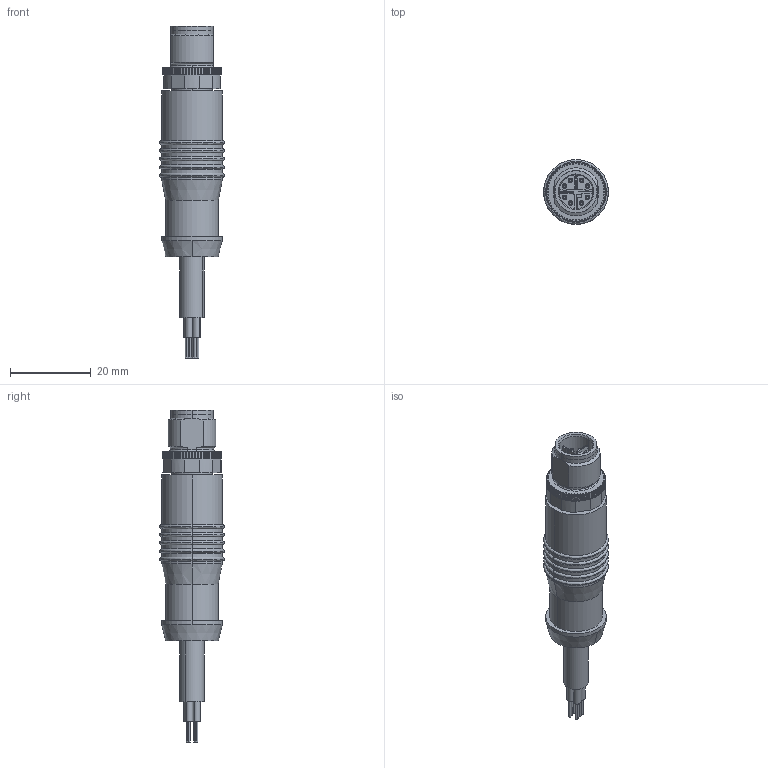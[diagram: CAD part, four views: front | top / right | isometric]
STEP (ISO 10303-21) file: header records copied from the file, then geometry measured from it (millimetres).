
FILE_DESCRIPTION (( 'STEP AP214' ), '1' );
FILE_NAME ('MV-13.STEP', '2023-06-22T15:48:21', ( '' ), ( '' ), 'SwSTEP 2.0', 'SolidWorks 2021', '' );
FILE_SCHEMA (( 'AUTOMOTIVE_DESIGN' ));
Length unit declared in the file: millimetre
Products named in the file (4): MV-13; MV-13 Overmold; 99-3787-810-08-001_00; MI_Cable_Ethernet
Assembly tree (3 placements, depth 2):
  MV-13
    99-3787-810-08-001_00
    MV-13 Overmold
    MI_Cable_Ethernet
Bounding box: 16 x 16 x 82.05 mm (x, y, z)
Volume: 8519.3 mm3; surface area: 4550.7 mm2
Topology: 15 solids, 15 shells, 594 faces, 1538 edges, 980 vertices
Faces by surface type: plane 310, cylinder 226, bspline 48, cone 10
Entity records: 20439 total; most frequent: CARTESIAN_POINT 3980, DIRECTION 3196, ORIENTED_EDGE 3044, EDGE_CURVE 1522, AXIS2_PLACEMENT_3D 1158, VERTEX_POINT 980, LINE 880, VECTOR 880
